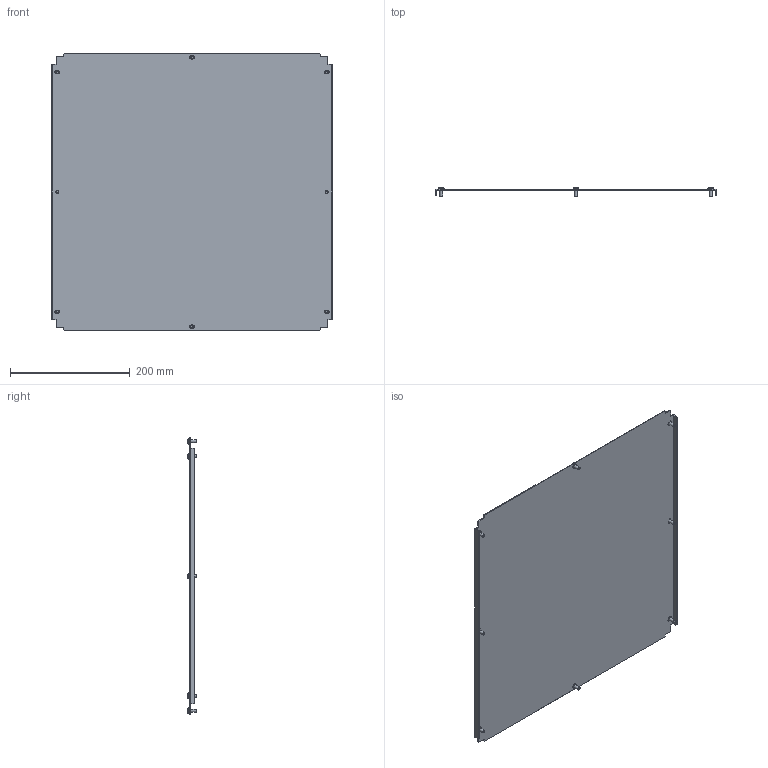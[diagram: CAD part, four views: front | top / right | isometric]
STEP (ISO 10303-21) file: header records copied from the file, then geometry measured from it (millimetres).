
FILE_DESCRIPTION (( 'STEP AP203' ), '1' );
FILE_NAME ('R5N1BP66.STEP', '2025-02-21T13:52:21', ( '' ), ( '' ), 'SwSTEP 2.0', 'SolidWorks 2022', '' );
FILE_SCHEMA (( 'CONFIG_CONTROL_DESIGN' ));
Length unit declared in the file: millimetre
Products named in the file (3): M5x12 DIN 7500 C Torx Zinc_stright; R5N1BP66; RB.1923.00.00.0_-09
Assembly tree (9 placements, depth 2):
  R5N1BP66
    RB.1923.00.00.0_-09
    M5x12 DIN 7500 C Torx Zinc_stright  x8
Bounding box: 468 x 15.56 x 462 mm (x, y, z)
Volume: 335784.1 mm3; surface area: 449619.6 mm2
Topology: 9 solids, 9 shells, 198 faces, 444 edges, 272 vertices
Faces by surface type: plane 122, cylinder 28, torus 16, cone 16, sphere 8, bspline 8
Full cylindrical faces by diameter (mm): 5 x8, 9.5 x8
Entity records: 3361 total; most frequent: CARTESIAN_POINT 676, DIRECTION 448, ORIENTED_EDGE 448, EDGE_CURVE 224, VECTOR 180, LINE 180, VERTEX_POINT 150, AXIS2_PLACEMENT_3D 134
